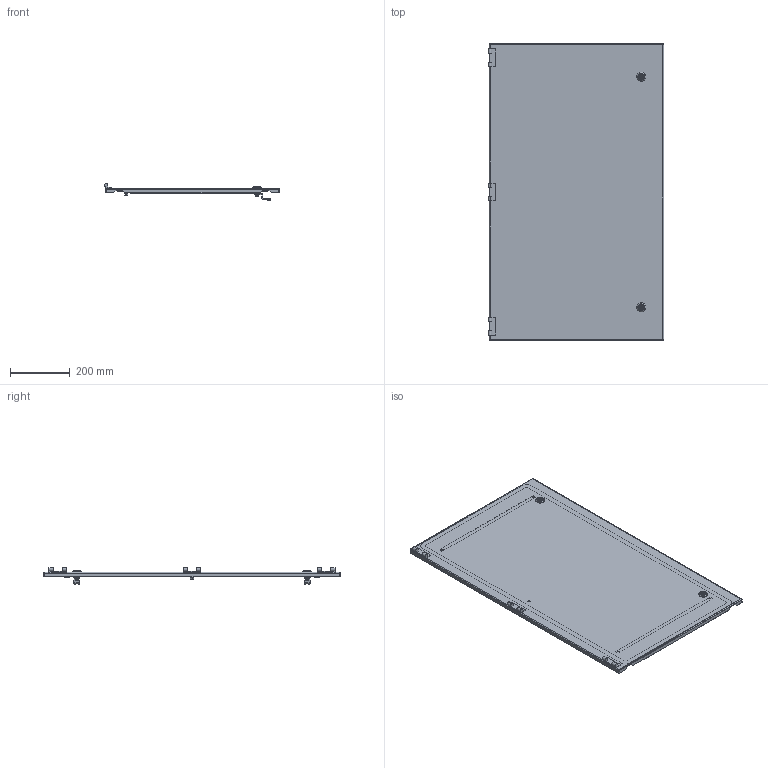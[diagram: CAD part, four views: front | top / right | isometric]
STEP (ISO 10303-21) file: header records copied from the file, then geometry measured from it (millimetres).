
FILE_DESCRIPTION (( 'STEP AP214' ), '1' );
FILE_NAME ('D 100.60 M Äâåðü ñåêöèîííàÿ ãëóõàÿ.STEP', '2016-10-10T07:07:27', ( '' ), ( '' ), 'SwSTEP 2.0', 'SolidWorks 2012', '' );
FILE_SCHEMA (( 'AUTOMOTIVE_DESIGN' ));
Length unit declared in the file: millimetre
Products named in the file (1): D 100.60 M Äâåðü ñåêöèîííàÿ ãëóõàÿ
Bounding box: 588.2 x 994 x 56.33 mm (x, y, z)
Volume: 1624059.9 mm3; surface area: 1461341.5 mm2
Topology: 12 solids, 12 shells, 699 faces, 1814 edges, 1156 vertices
Faces by surface type: plane 309, cylinder 278, cone 64, bspline 22, torus 18, sphere 8
Entity records: 22879 total; most frequent: CARTESIAN_POINT 5196, DIRECTION 3660, ORIENTED_EDGE 3612, EDGE_CURVE 1806, AXIS2_PLACEMENT_3D 1338, VERTEX_POINT 1156, VECTOR 984, LINE 984
